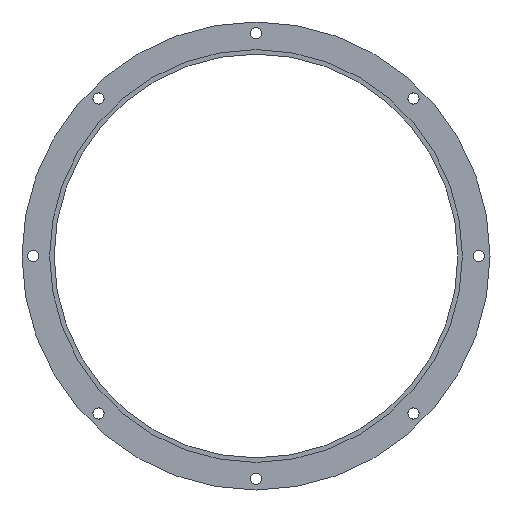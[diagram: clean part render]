
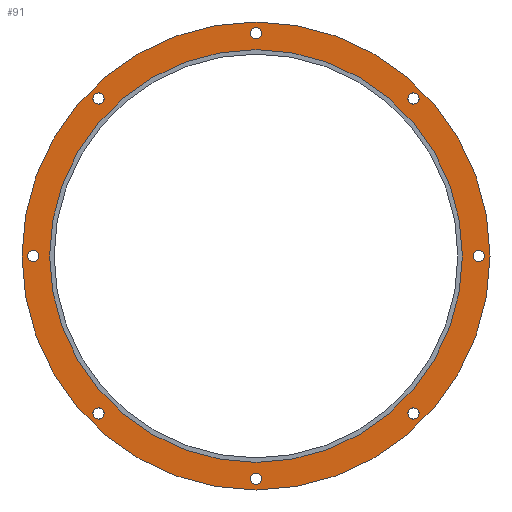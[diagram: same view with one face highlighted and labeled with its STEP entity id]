
A CAD part, front view. The second image highlights one B-rep face of the part: STEP entity #91.
In plain terms, the highlighted planar face has unit normal (0, -1, 0).
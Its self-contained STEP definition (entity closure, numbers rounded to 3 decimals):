
#91=ADVANCED_FACE('',(#179,#180,#181,#182,#183,#184,#185,#186,#187,#188),#189,.F.);
#179=FACE_BOUND('',#280,.T.);
#180=FACE_BOUND('',#281,.T.);
#181=FACE_BOUND('',#282,.T.);
#182=FACE_BOUND('',#283,.T.);
#183=FACE_BOUND('',#284,.T.);
#184=FACE_BOUND('',#285,.T.);
#185=FACE_BOUND('',#286,.T.);
#186=FACE_BOUND('',#287,.T.);
#187=FACE_OUTER_BOUND('',#288,.T.);
#188=FACE_BOUND('',#289,.T.);
#189=PLANE('',#290);
#280=EDGE_LOOP('',(#480,#481));
#281=EDGE_LOOP('',(#482,#483));
#282=EDGE_LOOP('',(#484,#485));
#283=EDGE_LOOP('',(#486,#487));
#284=EDGE_LOOP('',(#488,#489));
#285=EDGE_LOOP('',(#490,#491));
#286=EDGE_LOOP('',(#492,#493));
#287=EDGE_LOOP('',(#494,#495));
#288=EDGE_LOOP('',(#496,#497));
#289=EDGE_LOOP('',(#498,#499));
#290=AXIS2_PLACEMENT_3D('',#500,#501,#502);
#480=ORIENTED_EDGE('',*,*,#595,.T.);
#481=ORIENTED_EDGE('',*,*,#600,.T.);
#482=ORIENTED_EDGE('',*,*,#590,.T.);
#483=ORIENTED_EDGE('',*,*,#603,.T.);
#484=ORIENTED_EDGE('',*,*,#585,.T.);
#485=ORIENTED_EDGE('',*,*,#606,.T.);
#486=ORIENTED_EDGE('',*,*,#580,.T.);
#487=ORIENTED_EDGE('',*,*,#609,.T.);
#488=ORIENTED_EDGE('',*,*,#575,.T.);
#489=ORIENTED_EDGE('',*,*,#612,.T.);
#490=ORIENTED_EDGE('',*,*,#570,.T.);
#491=ORIENTED_EDGE('',*,*,#615,.T.);
#492=ORIENTED_EDGE('',*,*,#565,.T.);
#493=ORIENTED_EDGE('',*,*,#618,.T.);
#494=ORIENTED_EDGE('',*,*,#560,.T.);
#495=ORIENTED_EDGE('',*,*,#621,.T.);
#496=ORIENTED_EDGE('',*,*,#547,.F.);
#497=ORIENTED_EDGE('',*,*,#629,.F.);
#498=ORIENTED_EDGE('',*,*,#552,.F.);
#499=ORIENTED_EDGE('',*,*,#626,.F.);
#500=CARTESIAN_POINT('',(0.0,-4.0,0.));
#501=DIRECTION('',(0.0,1.0,0.));
#502=DIRECTION('',(1.0,0.0,0.0));
#547=EDGE_CURVE('',#640,#636,#642,.T.);
#552=EDGE_CURVE('',#649,#645,#651,.T.);
#560=EDGE_CURVE('',#665,#662,#666,.T.);
#565=EDGE_CURVE('',#674,#671,#675,.T.);
#570=EDGE_CURVE('',#683,#680,#684,.T.);
#575=EDGE_CURVE('',#692,#689,#693,.T.);
#580=EDGE_CURVE('',#701,#698,#702,.T.);
#585=EDGE_CURVE('',#710,#707,#711,.T.);
#590=EDGE_CURVE('',#719,#716,#720,.T.);
#595=EDGE_CURVE('',#728,#725,#729,.T.);
#600=EDGE_CURVE('',#725,#728,#735,.T.);
#603=EDGE_CURVE('',#716,#719,#738,.T.);
#606=EDGE_CURVE('',#707,#710,#741,.T.);
#609=EDGE_CURVE('',#698,#701,#744,.T.);
#612=EDGE_CURVE('',#689,#692,#747,.T.);
#615=EDGE_CURVE('',#680,#683,#750,.T.);
#618=EDGE_CURVE('',#671,#674,#753,.T.);
#621=EDGE_CURVE('',#662,#665,#756,.T.);
#626=EDGE_CURVE('',#645,#649,#761,.T.);
#629=EDGE_CURVE('',#636,#640,#764,.T.);
#636=VERTEX_POINT('',#771);
#640=VERTEX_POINT('',#776);
#642=CIRCLE('',#779,207.5);
#645=VERTEX_POINT('',#782);
#649=VERTEX_POINT('',#787);
#651=CIRCLE('',#790,183.0);
#662=VERTEX_POINT('',#803);
#665=VERTEX_POINT('',#807);
#666=CIRCLE('',#808,5.0);
#671=VERTEX_POINT('',#814);
#674=VERTEX_POINT('',#818);
#675=CIRCLE('',#819,5.0);
#680=VERTEX_POINT('',#825);
#683=VERTEX_POINT('',#829);
#684=CIRCLE('',#830,5.0);
#689=VERTEX_POINT('',#836);
#692=VERTEX_POINT('',#840);
#693=CIRCLE('',#841,5.0);
#698=VERTEX_POINT('',#847);
#701=VERTEX_POINT('',#851);
#702=CIRCLE('',#852,5.0);
#707=VERTEX_POINT('',#858);
#710=VERTEX_POINT('',#862);
#711=CIRCLE('',#863,5.0);
#716=VERTEX_POINT('',#869);
#719=VERTEX_POINT('',#873);
#720=CIRCLE('',#874,5.0);
#725=VERTEX_POINT('',#880);
#728=VERTEX_POINT('',#884);
#729=CIRCLE('',#885,5.0);
#735=CIRCLE('',#892,5.0);
#738=CIRCLE('',#895,5.0);
#741=CIRCLE('',#898,5.0);
#744=CIRCLE('',#901,5.0);
#747=CIRCLE('',#904,5.0);
#750=CIRCLE('',#907,5.0);
#753=CIRCLE('',#910,5.0);
#756=CIRCLE('',#913,5.0);
#761=CIRCLE('',#918,183.0);
#764=CIRCLE('',#921,207.5);
#771=CARTESIAN_POINT('',(207.5,-4.0,0.));
#776=CARTESIAN_POINT('',(-207.5,-4.0,0.));
#779=AXIS2_PLACEMENT_3D('',#931,#932,#933);
#782=CARTESIAN_POINT('',(183.0,-4.0,0.));
#787=CARTESIAN_POINT('',(-183.0,-4.0,0.));
#790=AXIS2_PLACEMENT_3D('',#939,#940,#941);
#803=CARTESIAN_POINT('',(202.5,-4.0,0.));
#807=CARTESIAN_POINT('',(192.5,-4.0,0.));
#808=AXIS2_PLACEMENT_3D('',#951,#952,#953);
#814=CARTESIAN_POINT('',(143.189,-4.,143.189));
#818=CARTESIAN_POINT('',(136.118,-4.,136.118));
#819=AXIS2_PLACEMENT_3D('',#959,#960,#961);
#825=CARTESIAN_POINT('',(0.,-4.,202.5));
#829=CARTESIAN_POINT('',(0.,-4.,192.5));
#830=AXIS2_PLACEMENT_3D('',#967,#968,#969);
#836=CARTESIAN_POINT('',(-143.189,-4.,143.189));
#840=CARTESIAN_POINT('',(-136.118,-4.,136.118));
#841=AXIS2_PLACEMENT_3D('',#975,#976,#977);
#847=CARTESIAN_POINT('',(-202.5,-4.0,0.));
#851=CARTESIAN_POINT('',(-192.5,-4.0,0.));
#852=AXIS2_PLACEMENT_3D('',#983,#984,#985);
#858=CARTESIAN_POINT('',(-143.189,-4.,-143.189));
#862=CARTESIAN_POINT('',(-136.118,-4.,-136.118));
#863=AXIS2_PLACEMENT_3D('',#991,#992,#993);
#869=CARTESIAN_POINT('',(0.,-4.,-202.5));
#873=CARTESIAN_POINT('',(0.,-4.,-192.5));
#874=AXIS2_PLACEMENT_3D('',#999,#1000,#1001);
#880=CARTESIAN_POINT('',(143.189,-4.,-143.189));
#884=CARTESIAN_POINT('',(136.118,-4.,-136.118));
#885=AXIS2_PLACEMENT_3D('',#1007,#1008,#1009);
#892=AXIS2_PLACEMENT_3D('',#1017,#1018,#1019);
#895=AXIS2_PLACEMENT_3D('',#1023,#1024,#1025);
#898=AXIS2_PLACEMENT_3D('',#1029,#1030,#1031);
#901=AXIS2_PLACEMENT_3D('',#1035,#1036,#1037);
#904=AXIS2_PLACEMENT_3D('',#1041,#1042,#1043);
#907=AXIS2_PLACEMENT_3D('',#1047,#1048,#1049);
#910=AXIS2_PLACEMENT_3D('',#1053,#1054,#1055);
#913=AXIS2_PLACEMENT_3D('',#1059,#1060,#1061);
#918=AXIS2_PLACEMENT_3D('',#1068,#1069,#1070);
#921=AXIS2_PLACEMENT_3D('',#1074,#1075,#1076);
#931=CARTESIAN_POINT('',(0.0,-4.0,0.));
#932=DIRECTION('',(0.0,1.0,0.));
#933=DIRECTION('',(1.0,0.0,0.0));
#939=CARTESIAN_POINT('',(0.0,-4.0,0.));
#940=DIRECTION('',(0.0,-1.0,0.));
#941=DIRECTION('',(1.0,0.0,0.0));
#951=CARTESIAN_POINT('',(197.5,-4.0,0.));
#952=DIRECTION('',(0.0,1.0,0.));
#953=DIRECTION('',(1.0,0.0,0.0));
#959=CARTESIAN_POINT('',(139.654,-4.,139.654));
#960=DIRECTION('',(0.0,1.0,0.));
#961=DIRECTION('',(0.707,0.,0.707));
#967=CARTESIAN_POINT('',(0.,-4.,197.5));
#968=DIRECTION('',(0.0,1.0,0.));
#969=DIRECTION('',(0.,0.,1.0));
#975=CARTESIAN_POINT('',(-139.654,-4.,139.654));
#976=DIRECTION('',(0.0,1.0,0.));
#977=DIRECTION('',(-0.707,0.,0.707));
#983=CARTESIAN_POINT('',(-197.5,-4.0,0.));
#984=DIRECTION('',(0.0,1.0,0.));
#985=DIRECTION('',(-1.0,0.,0.));
#991=CARTESIAN_POINT('',(-139.654,-4.,-139.654));
#992=DIRECTION('',(0.,1.0,0.));
#993=DIRECTION('',(-0.707,0.,-0.707));
#999=CARTESIAN_POINT('',(0.,-4.,-197.5));
#1000=DIRECTION('',(0.0,1.0,0.));
#1001=DIRECTION('',(0.,0.,-1.0));
#1007=CARTESIAN_POINT('',(139.654,-4.,-139.654));
#1008=DIRECTION('',(0.0,1.0,0.));
#1009=DIRECTION('',(0.707,0.,-0.707));
#1017=CARTESIAN_POINT('',(139.654,-4.,-139.654));
#1018=DIRECTION('',(0.0,1.0,0.));
#1019=DIRECTION('',(0.707,0.,-0.707));
#1023=CARTESIAN_POINT('',(0.,-4.,-197.5));
#1024=DIRECTION('',(0.0,1.0,0.));
#1025=DIRECTION('',(0.,0.,-1.0));
#1029=CARTESIAN_POINT('',(-139.654,-4.,-139.654));
#1030=DIRECTION('',(0.,1.0,0.));
#1031=DIRECTION('',(-0.707,0.,-0.707));
#1035=CARTESIAN_POINT('',(-197.5,-4.0,0.));
#1036=DIRECTION('',(0.0,1.0,0.));
#1037=DIRECTION('',(-1.0,0.,0.));
#1041=CARTESIAN_POINT('',(-139.654,-4.,139.654));
#1042=DIRECTION('',(0.0,1.0,0.));
#1043=DIRECTION('',(-0.707,0.,0.707));
#1047=CARTESIAN_POINT('',(0.,-4.,197.5));
#1048=DIRECTION('',(0.0,1.0,0.));
#1049=DIRECTION('',(0.,0.,1.0));
#1053=CARTESIAN_POINT('',(139.654,-4.,139.654));
#1054=DIRECTION('',(0.0,1.0,0.));
#1055=DIRECTION('',(0.707,0.,0.707));
#1059=CARTESIAN_POINT('',(197.5,-4.0,0.));
#1060=DIRECTION('',(0.0,1.0,0.));
#1061=DIRECTION('',(1.0,0.0,0.0));
#1068=CARTESIAN_POINT('',(0.0,-4.0,0.));
#1069=DIRECTION('',(0.0,-1.0,0.));
#1070=DIRECTION('',(1.0,0.0,0.0));
#1074=CARTESIAN_POINT('',(0.0,-4.0,0.));
#1075=DIRECTION('',(0.0,1.0,0.));
#1076=DIRECTION('',(1.0,0.0,0.0));
